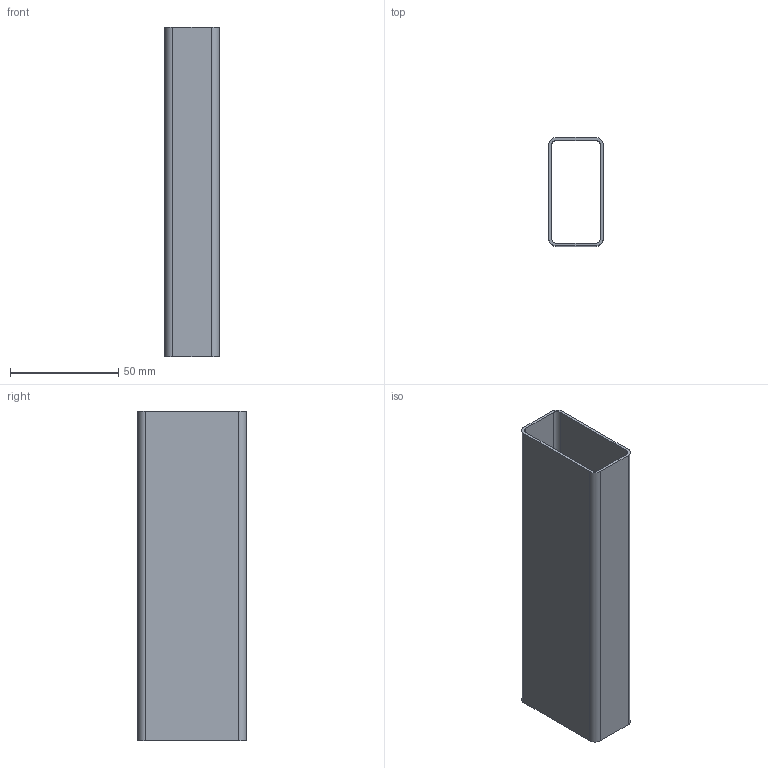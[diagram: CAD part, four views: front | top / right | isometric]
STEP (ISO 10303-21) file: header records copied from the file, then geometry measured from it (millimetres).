
FILE_DESCRIPTION (( 'STEP AP214' ), '1' );
FILE_NAME ('DRP-002-0000-04.STEP', '2010-06-24T16:34:13', ( '' ), ( '' ), 'SwSTEP 2.0', 'SolidWorks 2010', '' );
FILE_SCHEMA (( 'AUTOMOTIVE_DESIGN' ));
Length unit declared in the file: inch
Products named in the file (1): DRP-002-0000-04
Bounding box: 25.15 x 50.15 x 152.4 mm (x, y, z)
Volume: 27189.2 mm3; surface area: 43174.5 mm2
Topology: 1 solids, 1 shells, 18 faces, 48 edges, 32 vertices
Faces by surface type: plane 10, cylinder 8
Entity records: 612 total; most frequent: DIRECTION 102, CARTESIAN_POINT 99, ORIENTED_EDGE 96, EDGE_CURVE 48, AXIS2_PLACEMENT_3D 35, VERTEX_POINT 32, VECTOR 32, LINE 32
